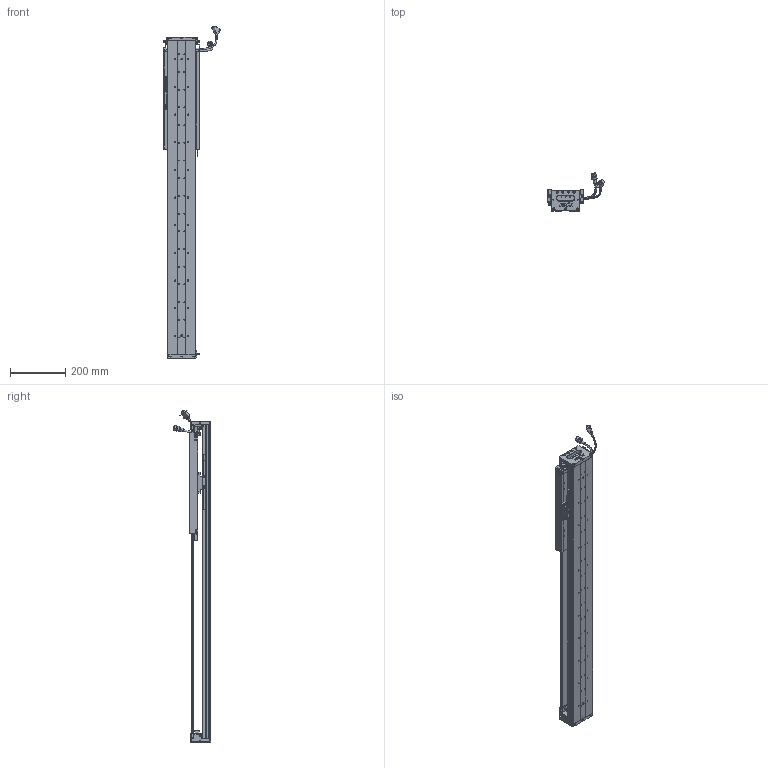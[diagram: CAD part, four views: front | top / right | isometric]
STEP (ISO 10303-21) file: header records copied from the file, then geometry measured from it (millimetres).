
FILE_DESCRIPTION (( 'STEP AP203' ), '1' );
FILE_NAME ('Z5-RY100D-1-L500-B-K.SLDASM_0700.step', '2021-05-17T03:32:38', ( '盈信电脑' ), ( '东莞市道滘镇水果街19号' ), 'SwSTEP 2.0', 'SolidWorks 2016', '' );
FILE_SCHEMA (( 'CONFIG_CONTROL_DESIGN' ));
Length unit declared in the file: millimetre
Products named in the file (36): Z5-RY100D-1-L500-B-K.SLDASM_0700; Z5-RY100铝滑块（21款）; HOLDER0; HARNESS-Part-1; SCALE-Part-2; PBU_SHEET; 榋妏寠巭燃_暯_M2_2; 140蚥薯蝶輸; Z-RY100D詩湍奻揤裔; SCALE; SCREW-M1.6-3; Z5-RY100D-500-倰第菁釱_0700; Z-RY100D覜茼んえ; LABEL-Part-1; HARNESS; SEAL-Part-1; SCREW-M1.6-2; SCREW-M1.6; 140雄赽晤鎢ん堤盄; LABEL; 080黍杅芛假蚾釱21遴; COVER-Part-1; PSLH080_PSLF2; 100-Z-臏賑輸盄裔(21遴); 覜茼ん672; HARNESS-Part-2; COVER; Z-100詩湍傷裔啣; SCREW-M1.7-1; Z5-RY100-L500詩湍90mm遵_0700; SCREW-M1.6-1; SHIELDPLATE; SCREW-M1.7; SCALE-Part-1; Z-RY100D詩湍狟揤裔; SEAL
Assembly tree (43 placements, depth 4):
  Z5-RY100D-1-L500-B-K.SLDASM_0700
    Z5-RY100D-500-倰第菁釱_0700
    Z5-RY100铝滑块（21款）
    PSLH080_PSLF2
      SCALE
        SCALE-Part-1
        SCALE-Part-2
      HARNESS
        HARNESS-Part-1
        HARNESS-Part-2
      LABEL
        LABEL-Part-1
      COVER
        COVER-Part-1
      SEAL
        SEAL-Part-1
      榋妏寠巭燃_暯_M2_2
      SHIELDPLATE
      SCREW-M1.7
      SCREW-M1.7-1
      PBU_SHEET
      SCREW-M1.6
      SCREW-M1.6-1
      SCREW-M1.6-2
      SCREW-M1.6-3
      HOLDER0
    080黍杅芛假蚾釱21遴
    Z-100詩湍傷裔啣  x2
    140蚥薯蝶輸  x2
    覜茼ん672  x3
    Z-RY100D覜茼んえ  x3
    100-Z-臏賑輸盄裔(21遴)
    140雄赽晤鎢ん堤盄
    Z5-RY100-L500詩湍90mm遵_0700
    Z-RY100D詩湍狟揤裔  x2
    Z-RY100D詩湍奻揤裔  x2
Bounding box: 205.84 x 136.11 x 1200.43 mm (x, y, z)
Volume: 2749257.9 mm3; surface area: 1017974.1 mm2
Topology: 38 solids, 38 shells, 2611 faces, 6859 edges, 4340 vertices
Faces by surface type: cylinder 1138, plane 1125, cone 226, torus 69, bspline 53
Entity records: 71129 total; most frequent: CARTESIAN_POINT 14971, DIRECTION 11281, ORIENTED_EDGE 10598, EDGE_CURVE 5299, AXIS2_PLACEMENT_3D 4154, VERTEX_POINT 3408, VECTOR 2973, LINE 2973
